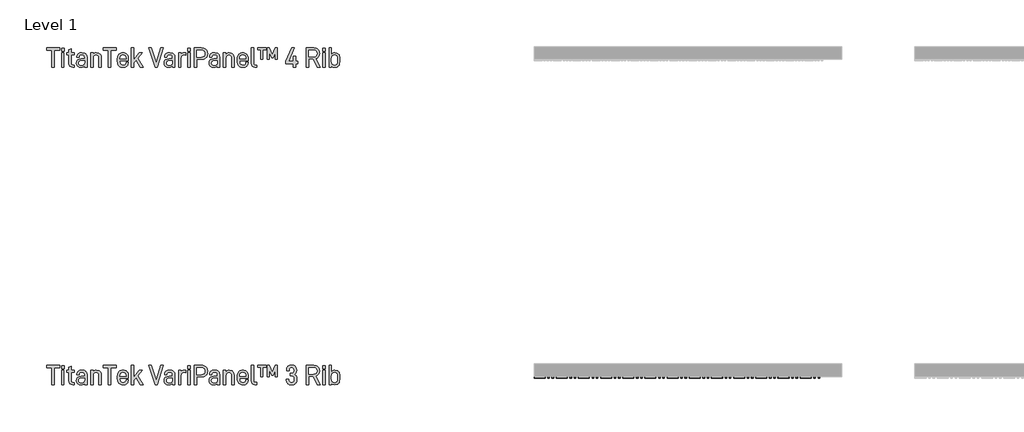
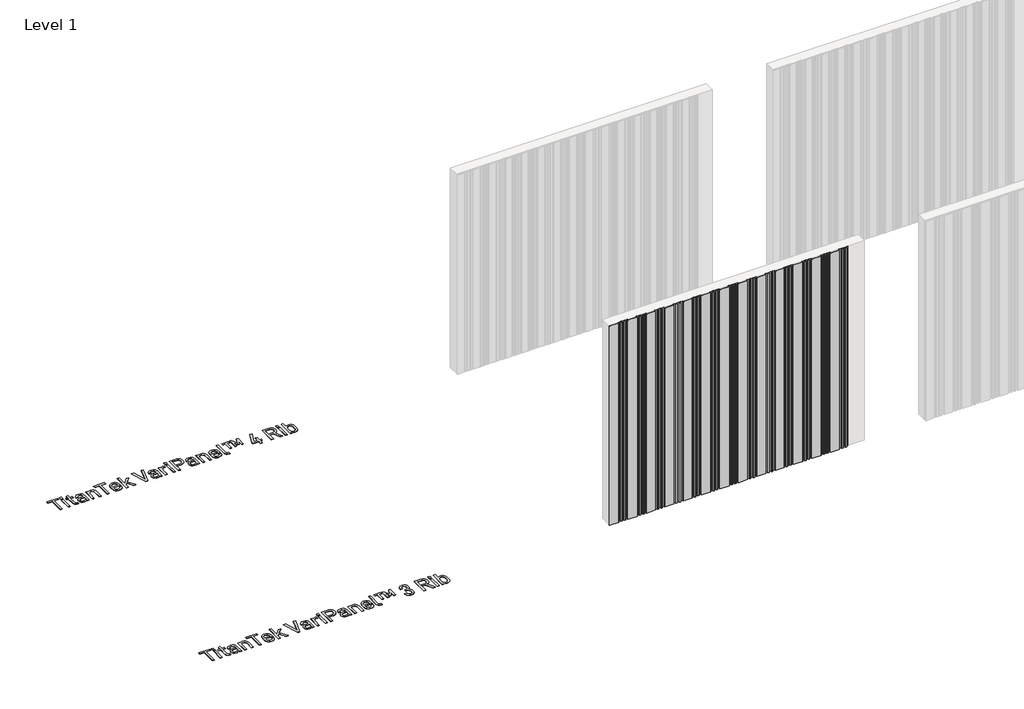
# One storey, part 15 of 33: 3 proxies.
"""IFC4 building model written with IfcOpenShell, lengths in millimetres."""

from ifc_helpers import new_model, si_unit, origin, origin_with_axes, place, context, project, spatial, polyline, outline, extrude, transform, mapped, element, save
from components import aluminum_slate_gray_e1f096ed

model = new_model("IFC4")

# Units and contexts
model_context = context("Model", 3, world=origin())
ifc_project = project(units=[si_unit("LENGTHUNIT", "METRE", prefix="MILLI")], contexts=[model_context])

# Site, building, storey
site = spatial("IfcSite", under=ifc_project)
building = spatial("IfcBuilding", under=site)
storey = spatial("IfcBuildingStorey", under=building, Name="Level 1", Elevation=0.0)

# Proxies
placement = place(None, origin())
element("IfcBuildingElementProxy", 1, Name="600mm Arial 2", ObjectType="600mm Arial 2", at=placement, inside=storey, context=model_context, shape_type="SweptSolid", body=[
    extrude(outline(polyline([(-9914.9924556, 32220.4128343), (-9914.9924556, 31952.9873502), (-9954.4439015, 31952.9873502), (-9954.4439015, 32220.4128343), (-10038.8787304, 32220.4128343), (-10038.8787304, 32257.3166776), (-9830.5576267, 32257.3166776), (-9830.5576267, 32220.4128343), (-9914.9924556, 32220.4128343)])), origin_with_axes(), (0.0, 0.0, 1.0), 5.0),
    extrude(outline(polyline([(-9763.1553408, 32253.0221475), (-9763.1553408, 32205.8551051), (-9802.6067867, 32205.8551051), (-9802.6067867, 32253.0221475), (-9763.1553408, 32253.0221475)])), origin_with_axes(), (0.0, 0.0, 1.0), 5.0),
    extrude(outline(polyline([(-9764.0288046, 32178.8505176), (-9764.0288046, 31952.9873502), (-9801.733323, 31952.9873502), (-9801.733323, 32178.8505176), (-9764.0288046, 32178.8505176)])), origin_with_axes(), (0.0, 0.0, 1.0), 5.0),
    extrude(outline(polyline([(-9648.294858, 32012.601251), (-9646.8208879, 32001.5191797), (-9642.3989777, 31993.6034145), (-9635.0291273, 31988.8539554), (-9624.7113368, 31987.2708023), (-9603.2386864, 31987.2708023), (-9603.2386864, 31952.9873502), (-9629.3698101, 31952.9873502), (-9653.1535001, 31956.9543314), (-9671.3688587, 31968.855275), (-9682.6692959, 31987.3981825), (-9686.4361083, 32011.2910554), (-9686.4361083, 32147.1146681), (-9720.2828285, 32147.1146681), (-9720.2828285, 32178.8505176), (-9686.4361083, 32178.8505176), (-9686.4361083, 32226.8910237), (-9648.294858, 32244.8698192), (-9648.294858, 32178.8505176), (-9599.3808881, 32178.8505176), (-9599.3808881, 32147.1146681), (-9648.294858, 32147.1146681), (-9648.294858, 32012.601251)])), origin_with_axes(), (0.0, 0.0, 1.0), 5.0),
    extrude(outline(polyline([(-9422.8684225, 32162.1091291), (-9413.2830677, 32151.3409589), (-9406.4363858, 32138.2526505), (-9400.9590402, 32105.1156196), (-9400.9590402, 31952.9873502), (-9438.2996154, 31952.9873502), (-9438.2996154, 31969.2920069), (-9456.7151427, 31956.8451485), (-9473.7476858, 31952.0410978), (-9493.9829293, 31950.4397476), (-9526.0281305, 31954.7160806), (-9550.1029751, 31967.5450794), (-9565.2248162, 31989.3270816), (-9570.2654299, 32018.5699199), (-9565.1338304, 32046.2114081), (-9549.7390318, 32067.4111012), (-9525.063681, 32080.6222403), (-9493.1094655, 32085.0259534), (-9438.7363472, 32085.0259534), (-9438.7363472, 32105.5523515), (-9441.6296959, 32124.441005), (-9450.3097419, 32138.1616647), (-9464.2305704, 32146.1866129), (-9483.7197302, 32148.8615956), (-9502.2262434, 32146.6051476), (-9515.819523, 32139.8358036), (-9524.1720201, 32129.4816187), (-9526.9561857, 32115.4516073), (-9526.9561857, 32109.8468816), (-9563.8600291, 32109.8468816), (-9563.8600291, 32116.2522824), (-9558.4008807, 32143.2932642), (-9542.0234354, 32164.2927885), (-9516.8203668, 32177.4493362), (-9484.1564621, 32181.8348521), (-9448.6719974, 32176.9034213), (-9434.5600987, 32170.7391329), (-9422.8684225, 32162.1091291)]), holes=[polyline([(-9450.6736851, 31994.5496669), (-9441.7206817, 32009.4531421), (-9438.7363472, 32031.0167784), (-9438.7363472, 32054.9642428), (-9488.8149354, 32054.9642428), (-9507.9538, 32052.7168933), (-9521.6244175, 32045.974845), (-9529.826788, 32034.7380979), (-9532.5609115, 32019.0066518), (-9529.8540837, 32003.0522906), (-9521.7336004, 31991.6563182), (-9508.1994616, 31984.8187348), (-9489.2516673, 31982.5395404), (-9466.104878, 31985.542072), (-9450.6736851, 31994.5496669)])]), origin_with_axes(), (0.0, 0.0, 1.0), 5.0),
    extrude(outline(polyline([(-9306.6977441, 32178.8505176), (-9306.6977441, 32160.4349903), (-9288.2822167, 32173.6825238), (-9271.1222935, 32179.4692211), (-9252.2518372, 32181.3981202), (-9219.9154813, 32175.9389718), (-9206.7907787, 32169.1150363), (-9195.6950595, 32159.5615265), (-9187.0650557, 32147.9790333), (-9180.9007673, 32134.1946835), (-9175.9693365, 32100.0204144), (-9175.9693365, 31952.9873502), (-9213.673855, 31952.9873502), (-9213.673855, 32095.7258843), (-9216.6763866, 32118.1083928), (-9225.6839815, 32133.8671346), (-9240.3781893, 32143.4752358), (-9259.567096, 32146.6779363), (-9278.7378056, 32143.4752358), (-9293.3774219, 32133.8671346), (-9303.0401146, 32117.453295), (-9306.2610122, 32095.7258843), (-9306.2610122, 31952.9873502), (-9343.9655306, 31952.9873502), (-9343.9655306, 32178.8505176), (-9306.6977441, 32178.8505176)])), origin_with_axes(), (0.0, 0.0, 1.0), 5.0),
    extrude(outline(polyline([(-9025.2240514, 32220.4128343), (-9025.2240514, 31952.9873502), (-9064.6754974, 31952.9873502), (-9064.6754974, 32220.4128343), (-9149.1103263, 32220.4128343), (-9149.1103263, 32257.3166776), (-8940.7892225, 32257.3166776), (-8940.7892225, 32220.4128343), (-9025.2240514, 32220.4128343)])), origin_with_axes(), (0.0, 0.0, 1.0), 5.0),
    extrude(outline(polyline([(-8884.5235994, 32047.2486463), (-8881.1025331, 32017.8329349), (-8870.8393341, 31998.8805913), (-8854.3527058, 31988.5900965), (-8832.2613519, 31985.1599316), (-8812.990558, 31987.7257314), (-8798.8513635, 31995.4231306), (-8790.1713175, 32007.1966941), (-8787.2779689, 32022.86445), (-8787.2779689, 32028.3963871), (-8750.3741256, 32028.3963871), (-8750.3741256, 32021.9909863), (-8756.0516399, 31992.8391337), (-8763.1485329, 31980.528754), (-8773.084183, 31969.7287387), (-8799.7976159, 31955.2619954), (-8834.3722226, 31950.4397476), (-8853.3222916, 31951.9387388), (-8870.2843206, 31956.4357123), (-8885.2583098, 31963.9306682), (-8898.2442591, 31974.4236064), (-8908.7371973, 31988.0237099), (-8916.2321532, 32004.8401617), (-8920.7291267, 32024.8729617), (-8922.2281179, 32048.1221101), (-8922.2281179, 32085.8266285), (-8920.7314014, 32108.5321367), (-8916.2412518, 32128.1714231), (-8908.7576691, 32144.7444879), (-8898.2806535, 32158.2513309), (-8885.4971476, 32168.5691214), (-8870.7301511, 32175.9389718), (-8853.979664, 32180.360882), (-8835.2456864, 32181.8348521), (-8816.8438069, 32180.360882), (-8800.2161506, 32175.9389718), (-8785.3627176, 32168.5691214), (-8772.2835079, 32158.2513309), (-8761.9657174, 32144.9082623), (-8754.595867, 32128.389789), (-8750.1739568, 32108.6959111), (-8748.6999867, 32085.8266285), (-8748.6999867, 32055.8377065), (-8884.5235994, 32055.8377065), (-8884.5235994, 32047.2486463)]), holes=[polyline([(-8871.2760659, 32133.4304027), (-8881.2117161, 32115.30603), (-8884.5235994, 32086.7000923), (-8786.4045051, 32086.2633604), (-8786.4045051, 32089.6844267), (-8789.6254027, 32116.9255774), (-8799.2880954, 32134.3038665), (-8814.9012599, 32143.5844188), (-8835.2456864, 32146.6779363), (-8855.60831, 32143.3660529), (-8871.2760659, 32133.4304027)])]), origin_with_axes(), (0.0, 0.0, 1.0), 5.0),
    extrude(outline(polyline([(-8663.391694, 32020.3168474), (-8663.391694, 31952.9873502), (-8701.0962125, 31952.9873502), (-8701.0962125, 32257.3166776), (-8663.391694, 32257.3166776), (-8663.391694, 32070.8321675), (-8575.0990669, 32178.8505176), (-8528.3687564, 32178.8505176), (-8602.5403863, 32091.8680861), (-8517.6688255, 31952.9873502), (-8563.5256722, 31952.9873502), (-8627.7980463, 32062.6798392), (-8663.391694, 32020.3168474)])), origin_with_axes(), (0.0, 0.0, 1.0), 5.0),
    extrude(outline(polyline([(-8240.5624516, 32257.3166776), (-8199.0001349, 32257.3166776), (-8298.4294248, 31952.9873502), (-8330.1652743, 31952.9873502), (-8429.1578324, 32257.3166776), (-8387.5955157, 32257.3166776), (-8313.8606177, 32022.86445), (-8240.5624516, 32257.3166776)])), origin_with_axes(), (0.0, 0.0, 1.0), 5.0),
    extrude(outline(polyline([(-8039.3018464, 32162.1091291), (-8029.7164916, 32151.3409589), (-8022.8698097, 32138.2526505), (-8017.3924641, 32105.1156196), (-8017.3924641, 31952.9873502), (-8054.7330393, 31952.9873502), (-8054.7330393, 31969.2920069), (-8073.1485666, 31956.8451485), (-8090.1811097, 31952.0410978), (-8110.4163532, 31950.4397476), (-8142.4615544, 31954.7160806), (-8166.536399, 31967.5450794), (-8181.6582401, 31989.3270816), (-8186.6988538, 32018.5699199), (-8181.5672543, 32046.2114081), (-8166.1724557, 32067.4111012), (-8141.4971049, 32080.6222403), (-8109.5428894, 32085.0259534), (-8055.1697712, 32085.0259534), (-8055.1697712, 32105.5523515), (-8058.0631198, 32124.441005), (-8066.7431658, 32138.1616647), (-8080.6639943, 32146.1866129), (-8100.1531542, 32148.8615956), (-8118.6596673, 32146.6051476), (-8132.2529469, 32139.8358036), (-8140.605444, 32129.4816187), (-8143.3896097, 32115.4516073), (-8143.3896097, 32109.8468816), (-8180.293453, 32109.8468816), (-8180.293453, 32116.2522824), (-8174.8343046, 32143.2932642), (-8158.4568593, 32164.2927885), (-8133.2537908, 32177.4493362), (-8100.589886, 32181.8348521), (-8065.1054213, 32176.9034213), (-8050.9935226, 32170.7391329), (-8039.3018464, 32162.1091291)]), holes=[polyline([(-8067.107109, 31994.5496669), (-8058.1541056, 32009.4531421), (-8055.1697712, 32031.0167784), (-8055.1697712, 32054.9642428), (-8105.2483594, 32054.9642428), (-8124.3872239, 32052.7168933), (-8138.0578414, 32045.974845), (-8146.2602119, 32034.7380979), (-8148.9943354, 32019.0066518), (-8146.2875076, 32003.0522906), (-8138.1670243, 31991.6563182), (-8124.6328855, 31984.8187348), (-8105.6850912, 31982.5395404), (-8082.5383019, 31985.542072), (-8067.107109, 31994.5496669)])]), origin_with_axes(), (0.0, 0.0, 1.0), 5.0),
    extrude(outline(polyline([(-7870.4321886, 32181.8348521), (-7850.2697337, 32179.7239814), (-7850.2697337, 32140.7092673), (-7876.8375894, 32146.313993), (-7895.1712295, 32142.7746451), (-7909.8472402, 32132.1566015), (-7919.4826371, 32115.7518604), (-7922.6944361, 32094.8524206), (-7922.6944361, 31952.9873502), (-7960.3989546, 31952.9873502), (-7960.3989546, 32178.8505176), (-7923.131168, 32178.8505176), (-7923.131168, 32159.1247947), (-7905.5891044, 32173.3185806), (-7889.4846166, 32179.7057842), (-7870.4321886, 32181.8348521)])), origin_with_axes(), (0.0, 0.0, 1.0), 5.0),
    extrude(outline(polyline([(-7773.9872331, 32253.0221475), (-7773.9872331, 32205.8551051), (-7813.438679, 32205.8551051), (-7813.438679, 32253.0221475), (-7773.9872331, 32253.0221475)])), origin_with_axes(), (0.0, 0.0, 1.0), 5.0),
    extrude(outline(polyline([(-7774.8606969, 32178.8505176), (-7774.8606969, 31952.9873502), (-7812.5652153, 31952.9873502), (-7812.5652153, 32178.8505176), (-7774.8606969, 32178.8505176)])), origin_with_axes(), (0.0, 0.0, 1.0), 5.0),
    extrude(outline(polyline([(-7529.6357497, 32233.2964245), (-7518.2033831, 32219.8396237), (-7510.0374069, 32203.926206), (-7505.1378212, 32185.5561716), (-7503.504626, 32164.7295204), (-7505.1651169, 32145.044741), (-7510.1465899, 32127.5527196), (-7518.4490448, 32112.2534562), (-7530.0724816, 32099.1469507), (-7544.1297888, 32088.6380899), (-7560.6073184, 32081.1317609), (-7579.5050706, 32076.6279634), (-7600.8230452, 32075.1266976), (-7671.5008201, 32075.1266976), (-7671.5008201, 31952.9873502), (-7711.3889979, 31952.9873502), (-7711.3889979, 32257.3166776), (-7600.8230452, 32257.3166776), (-7579.6415493, 32255.8154118), (-7560.7165014, 32251.3116143), (-7544.0479016, 32243.8052853), (-7529.6357497, 32233.2964245)]), holes=[polyline([(-7558.3872648, 32125.2780744), (-7547.141419, 32141.5827311), (-7543.3928038, 32164.7295204), (-7547.250602, 32189.3502798), (-7558.8239966, 32206.7285689), (-7577.8946218, 32216.9917679), (-7603.3706478, 32220.4128343), (-7671.5008201, 32220.4128343), (-7671.5008201, 32112.0305409), (-7603.3706478, 32112.0305409), (-7577.130341, 32115.3424243), (-7558.3872648, 32125.2780744)])]), origin_with_axes(), (0.0, 0.0, 1.0), 5.0),
    extrude(outline(polyline([(-7331.2139018, 32162.1091291), (-7321.628547, 32151.3409589), (-7314.781865, 32138.2526505), (-7309.3045194, 32105.1156196), (-7309.3045194, 31952.9873502), (-7346.6450946, 31952.9873502), (-7346.6450946, 31969.2920069), (-7365.060622, 31956.8451485), (-7382.093165, 31952.0410978), (-7402.3284085, 31950.4397476), (-7434.3736098, 31954.7160806), (-7458.4484543, 31967.5450794), (-7473.5702954, 31989.3270816), (-7478.6109091, 32018.5699199), (-7473.4793096, 32046.2114081), (-7458.0845111, 32067.4111012), (-7433.4091602, 32080.6222403), (-7401.4549448, 32085.0259534), (-7347.0818265, 32085.0259534), (-7347.0818265, 32105.5523515), (-7349.9751752, 32124.441005), (-7358.6552212, 32138.1616647), (-7372.5760496, 32146.1866129), (-7392.0652095, 32148.8615956), (-7410.5717226, 32146.6051476), (-7424.1650022, 32139.8358036), (-7432.5174993, 32129.4816187), (-7435.301665, 32115.4516073), (-7435.301665, 32109.8468816), (-7472.2055083, 32109.8468816), (-7472.2055083, 32116.2522824), (-7466.7463599, 32143.2932642), (-7450.3689146, 32164.2927885), (-7425.1658461, 32177.4493362), (-7392.5019414, 32181.8348521), (-7357.0174766, 32176.9034213), (-7342.905578, 32170.7391329), (-7331.2139018, 32162.1091291)]), holes=[polyline([(-7359.0191644, 31994.5496669), (-7350.066161, 32009.4531421), (-7347.0818265, 32031.0167784), (-7347.0818265, 32054.9642428), (-7397.1604147, 32054.9642428), (-7416.2992792, 32052.7168933), (-7429.9698967, 32045.974845), (-7438.1722672, 32034.7380979), (-7440.9063907, 32019.0066518), (-7438.199563, 32003.0522906), (-7430.0790797, 31991.6563182), (-7416.5449409, 31984.8187348), (-7397.5971466, 31982.5395404), (-7374.4503573, 31985.542072), (-7359.0191644, 31994.5496669)])]), origin_with_axes(), (0.0, 0.0, 1.0), 5.0),
    extrude(outline(polyline([(-7215.0432233, 32178.8505176), (-7215.0432233, 32160.4349903), (-7196.627696, 32173.6825238), (-7179.4677728, 32179.4692211), (-7160.5973164, 32181.3981202), (-7128.2609606, 32175.9389718), (-7115.1362579, 32169.1150363), (-7104.0405387, 32159.5615265), (-7095.410535, 32147.9790333), (-7089.2462465, 32134.1946835), (-7084.3148158, 32100.0204144), (-7084.3148158, 31952.9873502), (-7122.0193342, 31952.9873502), (-7122.0193342, 32095.7258843), (-7125.0218659, 32118.1083928), (-7134.0294607, 32133.8671346), (-7148.7236686, 32143.4752358), (-7167.9125753, 32146.6779363), (-7187.0832848, 32143.4752358), (-7201.7229012, 32133.8671346), (-7211.3855939, 32117.453295), (-7214.6064915, 32095.7258843), (-7214.6064915, 31952.9873502), (-7252.3110099, 31952.9873502), (-7252.3110099, 32178.8505176), (-7215.0432233, 32178.8505176)])), origin_with_axes(), (0.0, 0.0, 1.0), 5.0),
    extrude(outline(polyline([(-6997.8419048, 32047.2486463), (-6994.4208384, 32017.8329349), (-6984.1576394, 31998.8805913), (-6967.6710112, 31988.5900965), (-6945.5796572, 31985.1599316), (-6926.3088633, 31987.7257314), (-6912.1696689, 31995.4231306), (-6903.4896229, 32007.1966941), (-6900.5962742, 32022.86445), (-6900.5962742, 32028.3963871), (-6863.6924309, 32028.3963871), (-6863.6924309, 32021.9909863), (-6869.3699452, 31992.8391337), (-6876.4668382, 31980.528754), (-6886.4024883, 31969.7287387), (-6913.1159213, 31955.2619954), (-6947.6905279, 31950.4397476), (-6966.6405969, 31951.9387388), (-6983.602626, 31956.4357123), (-6998.5766152, 31963.9306682), (-7011.5625645, 31974.4236064), (-7022.0555027, 31988.0237099), (-7029.5504585, 32004.8401617), (-7034.047432, 32024.8729617), (-7035.5464232, 32048.1221101), (-7035.5464232, 32085.8266285), (-7034.0497067, 32108.5321367), (-7029.5595571, 32128.1714231), (-7022.0759745, 32144.7444879), (-7011.5989588, 32158.2513309), (-6998.8154529, 32168.5691214), (-6984.0484564, 32175.9389718), (-6967.2979694, 32180.360882), (-6948.5639917, 32181.8348521), (-6930.1621122, 32180.360882), (-6913.534456, 32175.9389718), (-6898.681023, 32168.5691214), (-6885.6018132, 32158.2513309), (-6875.2840227, 32144.9082623), (-6867.9141723, 32128.389789), (-6863.4922621, 32108.6959111), (-6862.018292, 32085.8266285), (-6862.018292, 32055.8377065), (-6997.8419048, 32055.8377065), (-6997.8419048, 32047.2486463)]), holes=[polyline([(-6984.5943713, 32133.4304027), (-6994.5300214, 32115.30603), (-6997.8419048, 32086.7000923), (-6899.7228105, 32086.2633604), (-6899.7228105, 32089.6844267), (-6902.943708, 32116.9255774), (-6912.6064007, 32134.3038665), (-6928.2195652, 32143.5844188), (-6948.5639917, 32146.6779363), (-6968.9266153, 32143.3660529), (-6984.5943713, 32133.4304027)])]), origin_with_axes(), (0.0, 0.0, 1.0), 5.0),
    extrude(outline(polyline([(-6799.4200568, 31968.855275), (-6810.6659025, 31988.362632), (-6814.4145178, 32014.2753899), (-6814.4145178, 32257.3166776), (-6776.7099994, 32257.3166776), (-6776.7099994, 32016.0223174), (-6775.3270151, 32002.6110094), (-6771.1780623, 31994.112935), (-6764.1903523, 31989.6364333), (-6753.5632101, 31988.1442661), (-6731.7266164, 31988.1442661), (-6731.7266164, 31952.9873502), (-6756.5475445, 31952.9873502), (-6781.4230642, 31956.9543314), (-6799.4200568, 31968.855275)])), origin_with_axes(), (0.0, 0.0, 1.0), 5.0),
    extrude(outline(polyline([(-6712.9471458, 32226.01756), (-6712.9471458, 32257.3166776), (-6580.9813313, 32257.3166776), (-6580.9813313, 32226.01756), (-6629.8225125, 32226.01756), (-6629.8225125, 32079.8579596), (-6663.6692327, 32079.8579596), (-6663.6692327, 32226.01756), (-6712.9471458, 32226.01756)])), origin_with_axes(), (0.0, 0.0, 1.0), 5.0),
    extrude(outline(polyline([(-6435.2584627, 32257.3166776), (-6404.8328089, 32257.3166776), (-6404.8328089, 32079.8579596), (-6437.3693334, 32079.8579596), (-6437.3693334, 32178.4137857), (-6470.4153786, 32104.6788877), (-6493.9988997, 32104.6788877), (-6527.4088881, 32178.4137857), (-6527.4088881, 32079.8579596), (-6559.9454127, 32079.8579596), (-6559.9454127, 32257.3166776), (-6529.5197588, 32257.3166776), (-6481.9887732, 32149.7350594), (-6435.2584627, 32257.3166776)])), origin_with_axes(), (0.0, 0.0, 1.0), 5.0),
    extrude(outline(polyline([(-6239.1658514, 31968.855275), (-6248.9104313, 31980.1466136), (-6255.8708456, 31993.0574997), (-6261.439177, 32023.7379138), (-6261.439177, 32034.8745766), (-6221.5509992, 32034.8745766), (-6221.5509992, 32024.9753208), (-6218.7668335, 32008.2703266), (-6210.4143364, 31995.8598625), (-6197.0212256, 31987.8349143), (-6179.1152188, 31985.1599316), (-6160.4995226, 31988.253449), (-6146.5786942, 31997.5340014), (-6137.8986482, 32012.6558425), (-6135.0052995, 32032.2541853), (-6135.0052995, 32043.3908481), (-6138.1170141, 32063.5715001), (-6147.4521579, 32079.4212277), (-6161.8825069, 32089.0839204), (-6181.2988781, 32092.304818), (-6201.0246011, 32092.304818), (-6201.0246011, 32129.1358727), (-6181.73561, 32129.1358727), (-6164.375518, 32132.1384043), (-6150.8732243, 32141.1459992), (-6142.5207272, 32155.5035595), (-6139.7365615, 32173.6825238), (-6139.7365615, 32182.271584), (-6142.4115442, 32200.1775908), (-6150.4364924, 32213.5707016), (-6163.3928713, 32222.2507476), (-6179.9886825, 32225.1440962), (-6196.6936767, 32222.4691135), (-6209.1041408, 32214.4441653), (-6216.8561315, 32201.5787722), (-6219.4401284, 32185.2559184), (-6219.4401284, 32174.1192557), (-6258.0181106, 32174.1192557), (-6258.0181106, 32186.1293822), (-6252.649948, 32216.9917679), (-6245.9397447, 32229.857161), (-6236.5454602, 32241.012021), (-6225.2586708, 32249.9923201), (-6211.9247008, 32256.4068195), (-6179.1152188, 32261.5384191), (-6146.560497, 32256.2976366), (-6133.1628369, 32249.7466585), (-6121.6849774, 32240.5752891), (-6112.3225378, 32229.0155423), (-6105.635081, 32215.7361638), (-6100.2851155, 32184.0185115), (-6100.2851155, 32174.5559875), (-6103.0692812, 32153.1379286), (-6111.4217783, 32135.1773302), (-6121.084471, 32123.0398236), (-6132.020965, 32114.1414117), (-6117.9727564, 32104.2785502), (-6106.6905164, 32090.1211586), (-6098.0104704, 32069.0124514), (-6095.1171217, 32044.2643119), (-6095.1171217, 32034.0011128), (-6100.903819, 31999.3901118), (-6108.1371907, 31984.7322983), (-6118.263911, 31971.8396095), (-6130.9382339, 31961.7128891), (-6145.3776815, 31954.4795175), (-6179.5519506, 31948.6928201), (-6212.8709532, 31953.7334339), (-6239.1658514, 31968.855275)])), origin_with_axes(), (0.0, 0.0, 1.0), 5.0),
    extrude(outline(polyline([(-5905.9394317, 32082.842294), (-5905.9394317, 31952.9873502), (-5945.8276095, 31952.9873502), (-5945.8276095, 32257.3166776), (-5831.8405905, 32257.3166776), (-5793.3535941, 32251.6391632), (-5777.3992328, 32244.5422703), (-5763.6376295, 32234.6066202), (-5752.5874033, 32221.8777058), (-5744.6943845, 32206.8377519), (-5739.9585732, 32189.4867585), (-5738.3799695, 32169.8247256), (-5742.7654854, 32139.8540007), (-5755.9220331, 32115.0148754), (-5775.0108554, 32097.9641352), (-5799.6680091, 32087.1368241), (-5728.9902342, 31952.9873502), (-5774.8470809, 31952.9873502), (-5841.6670576, 32082.842294), (-5905.9394317, 32082.842294)]), holes=[polyline([(-5834.3881931, 32118.4359417), (-5810.0585883, 32121.7478251), (-5792.8258764, 32131.6834753), (-5781.9075796, 32147.5695972), (-5778.2681473, 32169.4607823), (-5781.7983966, 32191.6158263), (-5792.3891445, 32207.5656383), (-5809.9494053, 32217.2010353), (-5834.3881931, 32220.4128343), (-5905.9394317, 32220.4128343), (-5905.9394317, 32118.4359417), (-5834.3881931, 32118.4359417)])]), origin_with_axes(), (0.0, 0.0, 1.0), 5.0),
    extrude(outline(polyline([(-5649.7233991, 32253.0221475), (-5649.7233991, 32205.8551051), (-5689.174845, 32205.8551051), (-5689.174845, 32253.0221475), (-5649.7233991, 32253.0221475)])), origin_with_axes(), (0.0, 0.0, 1.0), 5.0),
    extrude(outline(polyline([(-5650.5968629, 32178.8505176), (-5650.5968629, 31952.9873502), (-5688.3013813, 31952.9873502), (-5688.3013813, 32178.8505176), (-5650.5968629, 32178.8505176)])), origin_with_axes(), (0.0, 0.0, 1.0), 5.0),
    extrude(outline(polyline([(-5441.8390272, 32158.6880628), (-5432.0944473, 32145.9455005), (-5425.134033, 32129.9911392), (-5420.9577845, 32110.824979), (-5419.5657016, 32088.4470198), (-5419.5657016, 32043.82758), (-5425.0248501, 32002.2834605), (-5431.8487856, 31986.3290992), (-5441.4022953, 31973.586537), (-5453.0712251, 31963.4598166), (-5466.2414206, 31956.226445), (-5497.0856092, 31950.4397476), (-5528.2755439, 31955.8988961), (-5540.8952753, 31962.7228316), (-5551.5315162, 31972.2763413), (-5551.5315162, 31952.9873502), (-5589.2360346, 31952.9873502), (-5589.2360346, 32257.3166776), (-5551.5315162, 32257.3166776), (-5551.5315162, 32158.2513309), (-5534.8629163, 32172.8818487), (-5518.2489079, 32179.5966012), (-5499.2692686, 32181.8348521), (-5467.1148844, 32176.0481548), (-5453.6171399, 32168.8147831), (-5441.8390272, 32158.6880628)]), holes=[polyline([(-5457.2702201, 32045.5745075), (-5457.2702201, 32086.7000923), (-5460.136273, 32112.940399), (-5468.7344318, 32131.6834753), (-5483.0646964, 32142.929321), (-5503.1270668, 32146.6779363), (-5523.9082251, 32142.6199693), (-5539.0846578, 32130.4460683), (-5548.4198016, 32110.0652475), (-5551.5315162, 32084.1524897), (-5551.5315162, 32046.0112394), (-5548.3197172, 32021.2540013), (-5538.6843202, 32001.8649258), (-5522.934677, 31989.3361801), (-5501.3801393, 31985.1599316), (-5482.0820497, 31988.9358426), (-5468.2976999, 32000.2635756), (-5460.02709, 32019.1431305), (-5457.2702201, 32045.5745075)])]), origin_with_axes(), (0.0, 0.0, 1.0), 5.0),
])
element("IfcBuildingElementProxy", 2, Name="600mm Arial 2", ObjectType="600mm Arial 2", at=placement, inside=storey, context=model_context, shape_type="SweptSolid", body=[
    extrude(outline(polyline([(-9914.9924556, 37220.4128343), (-9914.9924556, 36952.9873502), (-9954.4439015, 36952.9873502), (-9954.4439015, 37220.4128343), (-10038.8787304, 37220.4128343), (-10038.8787304, 37257.3166776), (-9830.5576267, 37257.3166776), (-9830.5576267, 37220.4128343), (-9914.9924556, 37220.4128343)])), origin_with_axes(), (0.0, 0.0, 1.0), 5.0),
    extrude(outline(polyline([(-9763.1553408, 37253.0221475), (-9763.1553408, 37205.8551051), (-9802.6067867, 37205.8551051), (-9802.6067867, 37253.0221475), (-9763.1553408, 37253.0221475)])), origin_with_axes(), (0.0, 0.0, 1.0), 5.0),
    extrude(outline(polyline([(-9764.0288046, 37178.8505176), (-9764.0288046, 36952.9873502), (-9801.733323, 36952.9873502), (-9801.733323, 37178.8505176), (-9764.0288046, 37178.8505176)])), origin_with_axes(), (0.0, 0.0, 1.0), 5.0),
    extrude(outline(polyline([(-9648.294858, 37012.601251), (-9646.8208879, 37001.5191797), (-9642.3989777, 36993.6034145), (-9635.0291273, 36988.8539554), (-9624.7113368, 36987.2708023), (-9603.2386864, 36987.2708023), (-9603.2386864, 36952.9873502), (-9629.3698101, 36952.9873502), (-9653.1535001, 36956.9543314), (-9671.3688587, 36968.855275), (-9682.6692959, 36987.3981825), (-9686.4361083, 37011.2910554), (-9686.4361083, 37147.1146681), (-9720.2828285, 37147.1146681), (-9720.2828285, 37178.8505176), (-9686.4361083, 37178.8505176), (-9686.4361083, 37226.8910237), (-9648.294858, 37244.8698192), (-9648.294858, 37178.8505176), (-9599.3808881, 37178.8505176), (-9599.3808881, 37147.1146681), (-9648.294858, 37147.1146681), (-9648.294858, 37012.601251)])), origin_with_axes(), (0.0, 0.0, 1.0), 5.0),
    extrude(outline(polyline([(-9422.8684225, 37162.1091291), (-9413.2830677, 37151.3409589), (-9406.4363858, 37138.2526505), (-9400.9590402, 37105.1156196), (-9400.9590402, 36952.9873502), (-9438.2996154, 36952.9873502), (-9438.2996154, 36969.2920069), (-9456.7151427, 36956.8451485), (-9473.7476858, 36952.0410978), (-9493.9829293, 36950.4397476), (-9526.0281305, 36954.7160806), (-9550.1029751, 36967.5450794), (-9565.2248162, 36989.3270816), (-9570.2654299, 37018.5699199), (-9565.1338304, 37046.2114081), (-9549.7390318, 37067.4111012), (-9525.063681, 37080.6222403), (-9493.1094655, 37085.0259534), (-9438.7363472, 37085.0259534), (-9438.7363472, 37105.5523515), (-9441.6296959, 37124.441005), (-9450.3097419, 37138.1616647), (-9464.2305704, 37146.1866129), (-9483.7197302, 37148.8615956), (-9502.2262434, 37146.6051476), (-9515.819523, 37139.8358036), (-9524.1720201, 37129.4816187), (-9526.9561857, 37115.4516073), (-9526.9561857, 37109.8468816), (-9563.8600291, 37109.8468816), (-9563.8600291, 37116.2522824), (-9558.4008807, 37143.2932642), (-9542.0234354, 37164.2927885), (-9516.8203668, 37177.4493362), (-9484.1564621, 37181.8348521), (-9448.6719974, 37176.9034213), (-9434.5600987, 37170.7391329), (-9422.8684225, 37162.1091291)]), holes=[polyline([(-9450.6736851, 36994.5496669), (-9441.7206817, 37009.4531421), (-9438.7363472, 37031.0167784), (-9438.7363472, 37054.9642428), (-9488.8149354, 37054.9642428), (-9507.9538, 37052.7168933), (-9521.6244175, 37045.974845), (-9529.826788, 37034.7380979), (-9532.5609115, 37019.0066518), (-9529.8540837, 37003.0522906), (-9521.7336004, 36991.6563182), (-9508.1994616, 36984.8187348), (-9489.2516673, 36982.5395404), (-9466.104878, 36985.542072), (-9450.6736851, 36994.5496669)])]), origin_with_axes(), (0.0, 0.0, 1.0), 5.0),
    extrude(outline(polyline([(-9306.6977441, 37178.8505176), (-9306.6977441, 37160.4349903), (-9288.2822167, 37173.6825238), (-9271.1222935, 37179.4692211), (-9252.2518372, 37181.3981202), (-9219.9154813, 37175.9389718), (-9206.7907787, 37169.1150363), (-9195.6950595, 37159.5615265), (-9187.0650557, 37147.9790333), (-9180.9007673, 37134.1946835), (-9175.9693365, 37100.0204144), (-9175.9693365, 36952.9873502), (-9213.673855, 36952.9873502), (-9213.673855, 37095.7258843), (-9216.6763866, 37118.1083928), (-9225.6839815, 37133.8671346), (-9240.3781893, 37143.4752358), (-9259.567096, 37146.6779363), (-9278.7378056, 37143.4752358), (-9293.3774219, 37133.8671346), (-9303.0401146, 37117.453295), (-9306.2610122, 37095.7258843), (-9306.2610122, 36952.9873502), (-9343.9655306, 36952.9873502), (-9343.9655306, 37178.8505176), (-9306.6977441, 37178.8505176)])), origin_with_axes(), (0.0, 0.0, 1.0), 5.0),
    extrude(outline(polyline([(-9025.2240514, 37220.4128343), (-9025.2240514, 36952.9873502), (-9064.6754974, 36952.9873502), (-9064.6754974, 37220.4128343), (-9149.1103263, 37220.4128343), (-9149.1103263, 37257.3166776), (-8940.7892225, 37257.3166776), (-8940.7892225, 37220.4128343), (-9025.2240514, 37220.4128343)])), origin_with_axes(), (0.0, 0.0, 1.0), 5.0),
    extrude(outline(polyline([(-8884.5235994, 37047.2486463), (-8881.1025331, 37017.8329349), (-8870.8393341, 36998.8805913), (-8854.3527058, 36988.5900965), (-8832.2613519, 36985.1599316), (-8812.990558, 36987.7257314), (-8798.8513635, 36995.4231306), (-8790.1713175, 37007.1966941), (-8787.2779689, 37022.86445), (-8787.2779689, 37028.3963871), (-8750.3741256, 37028.3963871), (-8750.3741256, 37021.9909863), (-8756.0516399, 36992.8391337), (-8763.1485329, 36980.528754), (-8773.084183, 36969.7287387), (-8799.7976159, 36955.2619954), (-8834.3722226, 36950.4397476), (-8853.3222916, 36951.9387388), (-8870.2843206, 36956.4357123), (-8885.2583098, 36963.9306682), (-8898.2442591, 36974.4236064), (-8908.7371973, 36988.0237099), (-8916.2321532, 37004.8401617), (-8920.7291267, 37024.8729617), (-8922.2281179, 37048.1221101), (-8922.2281179, 37085.8266285), (-8920.7314014, 37108.5321367), (-8916.2412518, 37128.1714231), (-8908.7576691, 37144.7444879), (-8898.2806535, 37158.2513309), (-8885.4971476, 37168.5691214), (-8870.7301511, 37175.9389718), (-8853.979664, 37180.360882), (-8835.2456864, 37181.8348521), (-8816.8438069, 37180.360882), (-8800.2161506, 37175.9389718), (-8785.3627176, 37168.5691214), (-8772.2835079, 37158.2513309), (-8761.9657174, 37144.9082623), (-8754.595867, 37128.389789), (-8750.1739568, 37108.6959111), (-8748.6999867, 37085.8266285), (-8748.6999867, 37055.8377065), (-8884.5235994, 37055.8377065), (-8884.5235994, 37047.2486463)]), holes=[polyline([(-8871.2760659, 37133.4304027), (-8881.2117161, 37115.30603), (-8884.5235994, 37086.7000923), (-8786.4045051, 37086.2633604), (-8786.4045051, 37089.6844267), (-8789.6254027, 37116.9255774), (-8799.2880954, 37134.3038665), (-8814.9012599, 37143.5844188), (-8835.2456864, 37146.6779363), (-8855.60831, 37143.3660529), (-8871.2760659, 37133.4304027)])]), origin_with_axes(), (0.0, 0.0, 1.0), 5.0),
    extrude(outline(polyline([(-8663.391694, 37020.3168474), (-8663.391694, 36952.9873502), (-8701.0962125, 36952.9873502), (-8701.0962125, 37257.3166776), (-8663.391694, 37257.3166776), (-8663.391694, 37070.8321675), (-8575.0990669, 37178.8505176), (-8528.3687564, 37178.8505176), (-8602.5403863, 37091.8680861), (-8517.6688255, 36952.9873502), (-8563.5256722, 36952.9873502), (-8627.7980463, 37062.6798392), (-8663.391694, 37020.3168474)])), origin_with_axes(), (0.0, 0.0, 1.0), 5.0),
    extrude(outline(polyline([(-8240.5624516, 37257.3166776), (-8199.0001349, 37257.3166776), (-8298.4294248, 36952.9873502), (-8330.1652743, 36952.9873502), (-8429.1578324, 37257.3166776), (-8387.5955157, 37257.3166776), (-8313.8606177, 37022.86445), (-8240.5624516, 37257.3166776)])), origin_with_axes(), (0.0, 0.0, 1.0), 5.0),
    extrude(outline(polyline([(-8039.3018464, 37162.1091291), (-8029.7164916, 37151.3409589), (-8022.8698097, 37138.2526505), (-8017.3924641, 37105.1156196), (-8017.3924641, 36952.9873502), (-8054.7330393, 36952.9873502), (-8054.7330393, 36969.2920069), (-8073.1485666, 36956.8451485), (-8090.1811097, 36952.0410978), (-8110.4163532, 36950.4397476), (-8142.4615544, 36954.7160806), (-8166.536399, 36967.5450794), (-8181.6582401, 36989.3270816), (-8186.6988538, 37018.5699199), (-8181.5672543, 37046.2114081), (-8166.1724557, 37067.4111012), (-8141.4971049, 37080.6222403), (-8109.5428894, 37085.0259534), (-8055.1697712, 37085.0259534), (-8055.1697712, 37105.5523515), (-8058.0631198, 37124.441005), (-8066.7431658, 37138.1616647), (-8080.6639943, 37146.1866129), (-8100.1531542, 37148.8615956), (-8118.6596673, 37146.6051476), (-8132.2529469, 37139.8358036), (-8140.605444, 37129.4816187), (-8143.3896097, 37115.4516073), (-8143.3896097, 37109.8468816), (-8180.293453, 37109.8468816), (-8180.293453, 37116.2522824), (-8174.8343046, 37143.2932642), (-8158.4568593, 37164.2927885), (-8133.2537908, 37177.4493362), (-8100.589886, 37181.8348521), (-8065.1054213, 37176.9034213), (-8050.9935226, 37170.7391329), (-8039.3018464, 37162.1091291)]), holes=[polyline([(-8067.107109, 36994.5496669), (-8058.1541056, 37009.4531421), (-8055.1697712, 37031.0167784), (-8055.1697712, 37054.9642428), (-8105.2483594, 37054.9642428), (-8124.3872239, 37052.7168933), (-8138.0578414, 37045.974845), (-8146.2602119, 37034.7380979), (-8148.9943354, 37019.0066518), (-8146.2875076, 37003.0522906), (-8138.1670243, 36991.6563182), (-8124.6328855, 36984.8187348), (-8105.6850912, 36982.5395404), (-8082.5383019, 36985.542072), (-8067.107109, 36994.5496669)])]), origin_with_axes(), (0.0, 0.0, 1.0), 5.0),
    extrude(outline(polyline([(-7870.4321886, 37181.8348521), (-7850.2697337, 37179.7239814), (-7850.2697337, 37140.7092673), (-7876.8375894, 37146.313993), (-7895.1712295, 37142.7746451), (-7909.8472402, 37132.1566015), (-7919.4826371, 37115.7518604), (-7922.6944361, 37094.8524206), (-7922.6944361, 36952.9873502), (-7960.3989546, 36952.9873502), (-7960.3989546, 37178.8505176), (-7923.131168, 37178.8505176), (-7923.131168, 37159.1247947), (-7905.5891044, 37173.3185806), (-7889.4846166, 37179.7057842), (-7870.4321886, 37181.8348521)])), origin_with_axes(), (0.0, 0.0, 1.0), 5.0),
    extrude(outline(polyline([(-7773.9872331, 37253.0221475), (-7773.9872331, 37205.8551051), (-7813.438679, 37205.8551051), (-7813.438679, 37253.0221475), (-7773.9872331, 37253.0221475)])), origin_with_axes(), (0.0, 0.0, 1.0), 5.0),
    extrude(outline(polyline([(-7774.8606969, 37178.8505176), (-7774.8606969, 36952.9873502), (-7812.5652153, 36952.9873502), (-7812.5652153, 37178.8505176), (-7774.8606969, 37178.8505176)])), origin_with_axes(), (0.0, 0.0, 1.0), 5.0),
    extrude(outline(polyline([(-7529.6357497, 37233.2964245), (-7518.2033831, 37219.8396237), (-7510.0374069, 37203.926206), (-7505.1378212, 37185.5561716), (-7503.504626, 37164.7295204), (-7505.1651169, 37145.044741), (-7510.1465899, 37127.5527196), (-7518.4490448, 37112.2534562), (-7530.0724816, 37099.1469507), (-7544.1297888, 37088.6380899), (-7560.6073184, 37081.1317609), (-7579.5050706, 37076.6279634), (-7600.8230452, 37075.1266976), (-7671.5008201, 37075.1266976), (-7671.5008201, 36952.9873502), (-7711.3889979, 36952.9873502), (-7711.3889979, 37257.3166776), (-7600.8230452, 37257.3166776), (-7579.6415493, 37255.8154118), (-7560.7165014, 37251.3116143), (-7544.0479016, 37243.8052853), (-7529.6357497, 37233.2964245)]), holes=[polyline([(-7558.3872648, 37125.2780744), (-7547.141419, 37141.5827311), (-7543.3928038, 37164.7295204), (-7547.250602, 37189.3502798), (-7558.8239966, 37206.7285689), (-7577.8946218, 37216.9917679), (-7603.3706478, 37220.4128343), (-7671.5008201, 37220.4128343), (-7671.5008201, 37112.0305409), (-7603.3706478, 37112.0305409), (-7577.130341, 37115.3424243), (-7558.3872648, 37125.2780744)])]), origin_with_axes(), (0.0, 0.0, 1.0), 5.0),
    extrude(outline(polyline([(-7331.2139018, 37162.1091291), (-7321.628547, 37151.3409589), (-7314.781865, 37138.2526505), (-7309.3045194, 37105.1156196), (-7309.3045194, 36952.9873502), (-7346.6450946, 36952.9873502), (-7346.6450946, 36969.2920069), (-7365.060622, 36956.8451485), (-7382.093165, 36952.0410978), (-7402.3284085, 36950.4397476), (-7434.3736098, 36954.7160806), (-7458.4484543, 36967.5450794), (-7473.5702954, 36989.3270816), (-7478.6109091, 37018.5699199), (-7473.4793096, 37046.2114081), (-7458.0845111, 37067.4111012), (-7433.4091602, 37080.6222403), (-7401.4549448, 37085.0259534), (-7347.0818265, 37085.0259534), (-7347.0818265, 37105.5523515), (-7349.9751752, 37124.441005), (-7358.6552212, 37138.1616647), (-7372.5760496, 37146.1866129), (-7392.0652095, 37148.8615956), (-7410.5717226, 37146.6051476), (-7424.1650022, 37139.8358036), (-7432.5174993, 37129.4816187), (-7435.301665, 37115.4516073), (-7435.301665, 37109.8468816), (-7472.2055083, 37109.8468816), (-7472.2055083, 37116.2522824), (-7466.7463599, 37143.2932642), (-7450.3689146, 37164.2927885), (-7425.1658461, 37177.4493362), (-7392.5019414, 37181.8348521), (-7357.0174766, 37176.9034213), (-7342.905578, 37170.7391329), (-7331.2139018, 37162.1091291)]), holes=[polyline([(-7359.0191644, 36994.5496669), (-7350.066161, 37009.4531421), (-7347.0818265, 37031.0167784), (-7347.0818265, 37054.9642428), (-7397.1604147, 37054.9642428), (-7416.2992792, 37052.7168933), (-7429.9698967, 37045.974845), (-7438.1722672, 37034.7380979), (-7440.9063907, 37019.0066518), (-7438.199563, 37003.0522906), (-7430.0790797, 36991.6563182), (-7416.5449409, 36984.8187348), (-7397.5971466, 36982.5395404), (-7374.4503573, 36985.542072), (-7359.0191644, 36994.5496669)])]), origin_with_axes(), (0.0, 0.0, 1.0), 5.0),
    extrude(outline(polyline([(-7215.0432233, 37178.8505176), (-7215.0432233, 37160.4349903), (-7196.627696, 37173.6825238), (-7179.4677728, 37179.4692211), (-7160.5973164, 37181.3981202), (-7128.2609606, 37175.9389718), (-7115.1362579, 37169.1150363), (-7104.0405387, 37159.5615265), (-7095.410535, 37147.9790333), (-7089.2462465, 37134.1946835), (-7084.3148158, 37100.0204144), (-7084.3148158, 36952.9873502), (-7122.0193342, 36952.9873502), (-7122.0193342, 37095.7258843), (-7125.0218659, 37118.1083928), (-7134.0294607, 37133.8671346), (-7148.7236686, 37143.4752358), (-7167.9125753, 37146.6779363), (-7187.0832848, 37143.4752358), (-7201.7229012, 37133.8671346), (-7211.3855939, 37117.453295), (-7214.6064915, 37095.7258843), (-7214.6064915, 36952.9873502), (-7252.3110099, 36952.9873502), (-7252.3110099, 37178.8505176), (-7215.0432233, 37178.8505176)])), origin_with_axes(), (0.0, 0.0, 1.0), 5.0),
    extrude(outline(polyline([(-6997.8419048, 37047.2486463), (-6994.4208384, 37017.8329349), (-6984.1576394, 36998.8805913), (-6967.6710112, 36988.5900965), (-6945.5796572, 36985.1599316), (-6926.3088633, 36987.7257314), (-6912.1696689, 36995.4231306), (-6903.4896229, 37007.1966941), (-6900.5962742, 37022.86445), (-6900.5962742, 37028.3963871), (-6863.6924309, 37028.3963871), (-6863.6924309, 37021.9909863), (-6869.3699452, 36992.8391337), (-6876.4668382, 36980.528754), (-6886.4024883, 36969.7287387), (-6913.1159213, 36955.2619954), (-6947.6905279, 36950.4397476), (-6966.6405969, 36951.9387388), (-6983.602626, 36956.4357123), (-6998.5766152, 36963.9306682), (-7011.5625645, 36974.4236064), (-7022.0555027, 36988.0237099), (-7029.5504585, 37004.8401617), (-7034.047432, 37024.8729617), (-7035.5464232, 37048.1221101), (-7035.5464232, 37085.8266285), (-7034.0497067, 37108.5321367), (-7029.5595571, 37128.1714231), (-7022.0759745, 37144.7444879), (-7011.5989588, 37158.2513309), (-6998.8154529, 37168.5691214), (-6984.0484564, 37175.9389718), (-6967.2979694, 37180.360882), (-6948.5639917, 37181.8348521), (-6930.1621122, 37180.360882), (-6913.534456, 37175.9389718), (-6898.681023, 37168.5691214), (-6885.6018132, 37158.2513309), (-6875.2840227, 37144.9082623), (-6867.9141723, 37128.389789), (-6863.4922621, 37108.6959111), (-6862.018292, 37085.8266285), (-6862.018292, 37055.8377065), (-6997.8419048, 37055.8377065), (-6997.8419048, 37047.2486463)]), holes=[polyline([(-6984.5943713, 37133.4304027), (-6994.5300214, 37115.30603), (-6997.8419048, 37086.7000923), (-6899.7228105, 37086.2633604), (-6899.7228105, 37089.6844267), (-6902.943708, 37116.9255774), (-6912.6064007, 37134.3038665), (-6928.2195652, 37143.5844188), (-6948.5639917, 37146.6779363), (-6968.9266153, 37143.3660529), (-6984.5943713, 37133.4304027)])]), origin_with_axes(), (0.0, 0.0, 1.0), 5.0),
    extrude(outline(polyline([(-6799.4200568, 36968.855275), (-6810.6659025, 36988.362632), (-6814.4145178, 37014.2753899), (-6814.4145178, 37257.3166776), (-6776.7099994, 37257.3166776), (-6776.7099994, 37016.0223174), (-6775.3270151, 37002.6110094), (-6771.1780623, 36994.112935), (-6764.1903523, 36989.6364333), (-6753.5632101, 36988.1442661), (-6731.7266164, 36988.1442661), (-6731.7266164, 36952.9873502), (-6756.5475445, 36952.9873502), (-6781.4230642, 36956.9543314), (-6799.4200568, 36968.855275)])), origin_with_axes(), (0.0, 0.0, 1.0), 5.0),
    extrude(outline(polyline([(-6712.9471458, 37226.01756), (-6712.9471458, 37257.3166776), (-6580.9813313, 37257.3166776), (-6580.9813313, 37226.01756), (-6629.8225125, 37226.01756), (-6629.8225125, 37079.8579596), (-6663.6692327, 37079.8579596), (-6663.6692327, 37226.01756), (-6712.9471458, 37226.01756)])), origin_with_axes(), (0.0, 0.0, 1.0), 5.0),
    extrude(outline(polyline([(-6435.2584627, 37257.3166776), (-6404.8328089, 37257.3166776), (-6404.8328089, 37079.8579596), (-6437.3693334, 37079.8579596), (-6437.3693334, 37178.4137857), (-6470.4153786, 37104.6788877), (-6493.9988997, 37104.6788877), (-6527.4088881, 37178.4137857), (-6527.4088881, 37079.8579596), (-6559.9454127, 37079.8579596), (-6559.9454127, 37257.3166776), (-6529.5197588, 37257.3166776), (-6481.9887732, 37149.7350594), (-6435.2584627, 37257.3166776)])), origin_with_axes(), (0.0, 0.0, 1.0), 5.0),
    extrude(outline(polyline([(-6116.9537154, 37010.8543235), (-6116.9537154, 36952.9873502), (-6156.8418932, 36952.9873502), (-6156.8418932, 37010.8543235), (-6267.8445778, 37010.8543235), (-6267.8445778, 37044.2643119), (-6177.8778118, 37257.3166776), (-6137.1161702, 37257.3166776), (-6225.8455293, 37047.6853782), (-6156.8418932, 37047.6853782), (-6156.8418932, 37128.2624089), (-6116.9537154, 37128.2624089), (-6116.9537154, 37047.6853782), (-6084.8539227, 37047.6853782), (-6084.8539227, 37010.8543235), (-6116.9537154, 37010.8543235)])), origin_with_axes(), (0.0, 0.0, 1.0), 5.0),
    extrude(outline(polyline([(-5905.9394317, 37082.842294), (-5905.9394317, 36952.9873502), (-5945.8276095, 36952.9873502), (-5945.8276095, 37257.3166776), (-5831.8405905, 37257.3166776), (-5793.3535941, 37251.6391632), (-5777.3992328, 37244.5422703), (-5763.6376295, 37234.6066202), (-5752.5874033, 37221.8777058), (-5744.6943845, 37206.8377519), (-5739.9585732, 37189.4867585), (-5738.3799695, 37169.8247256), (-5742.7654854, 37139.8540007), (-5755.9220331, 37115.0148754), (-5775.0108554, 37097.9641352), (-5799.6680091, 37087.1368241), (-5728.9902342, 36952.9873502), (-5774.8470809, 36952.9873502), (-5841.6670576, 37082.842294), (-5905.9394317, 37082.842294)]), holes=[polyline([(-5834.3881931, 37118.4359417), (-5810.0585883, 37121.7478251), (-5792.8258764, 37131.6834753), (-5781.9075796, 37147.5695972), (-5778.2681473, 37169.4607823), (-5781.7983966, 37191.6158263), (-5792.3891445, 37207.5656383), (-5809.9494053, 37217.2010353), (-5834.3881931, 37220.4128343), (-5905.9394317, 37220.4128343), (-5905.9394317, 37118.4359417), (-5834.3881931, 37118.4359417)])]), origin_with_axes(), (0.0, 0.0, 1.0), 5.0),
    extrude(outline(polyline([(-5649.7233991, 37253.0221475), (-5649.7233991, 37205.8551051), (-5689.174845, 37205.8551051), (-5689.174845, 37253.0221475), (-5649.7233991, 37253.0221475)])), origin_with_axes(), (0.0, 0.0, 1.0), 5.0),
    extrude(outline(polyline([(-5650.5968629, 37178.8505176), (-5650.5968629, 36952.9873502), (-5688.3013813, 36952.9873502), (-5688.3013813, 37178.8505176), (-5650.5968629, 37178.8505176)])), origin_with_axes(), (0.0, 0.0, 1.0), 5.0),
    extrude(outline(polyline([(-5441.8390272, 37158.6880628), (-5432.0944473, 37145.9455005), (-5425.134033, 37129.9911392), (-5420.9577845, 37110.824979), (-5419.5657016, 37088.4470198), (-5419.5657016, 37043.82758), (-5425.0248501, 37002.2834605), (-5431.8487856, 36986.3290992), (-5441.4022953, 36973.586537), (-5453.0712251, 36963.4598166), (-5466.2414206, 36956.226445), (-5497.0856092, 36950.4397476), (-5528.2755439, 36955.8988961), (-5540.8952753, 36962.7228316), (-5551.5315162, 36972.2763413), (-5551.5315162, 36952.9873502), (-5589.2360346, 36952.9873502), (-5589.2360346, 37257.3166776), (-5551.5315162, 37257.3166776), (-5551.5315162, 37158.2513309), (-5534.8629163, 37172.8818487), (-5518.2489079, 37179.5966012), (-5499.2692686, 37181.8348521), (-5467.1148844, 37176.0481548), (-5453.6171399, 37168.8147831), (-5441.8390272, 37158.6880628)]), holes=[polyline([(-5457.2702201, 37045.5745075), (-5457.2702201, 37086.7000923), (-5460.136273, 37112.940399), (-5468.7344318, 37131.6834753), (-5483.0646964, 37142.929321), (-5503.1270668, 37146.6779363), (-5523.9082251, 37142.6199693), (-5539.0846578, 37130.4460683), (-5548.4198016, 37110.0652475), (-5551.5315162, 37084.1524897), (-5551.5315162, 37046.0112394), (-5548.3197172, 37021.2540013), (-5538.6843202, 37001.8649258), (-5522.934677, 36989.3361801), (-5501.3801393, 36985.1599316), (-5482.0820497, 36988.9358426), (-5468.2976999, 37000.2635756), (-5460.02709, 37019.1431305), (-5457.2702201, 37045.5745075)])]), origin_with_axes(), (0.0, 0.0, 1.0), 5.0),
])
aluminum_slate_gray_shape = aluminum_slate_gray_e1f096ed(model_context)
element("IfcBuildingElementProxy", 3, Name="TitanTek VariPanel™ 3 Rib : Aluminum Slate Gray", ObjectType="TitanTek VariPanel™ 3 Rib : Aluminum Slate Gray", at=placement, inside=storey, context=model_context, shape_type="MappedRepresentation", body=[
    mapped(aluminum_slate_gray_shape, transform((-2360.5897817, 32078.6095025, 0.0), x_axis=(1.0, 0.0, 0.0), y_axis=(0.0, 1.0, 0.0), z_axis=(0.0, 0.0, 1.0))),
])

save(model, "model.ifc")
